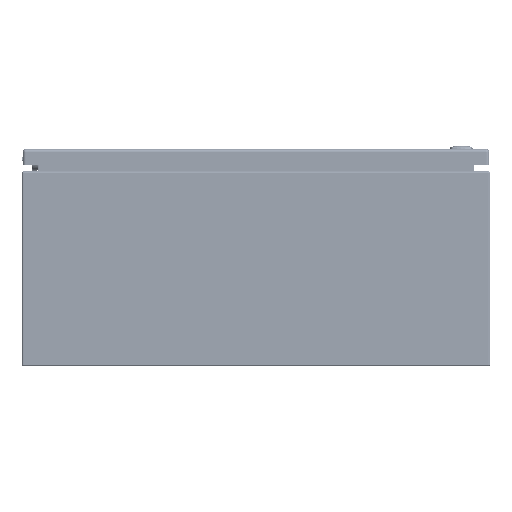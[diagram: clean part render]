
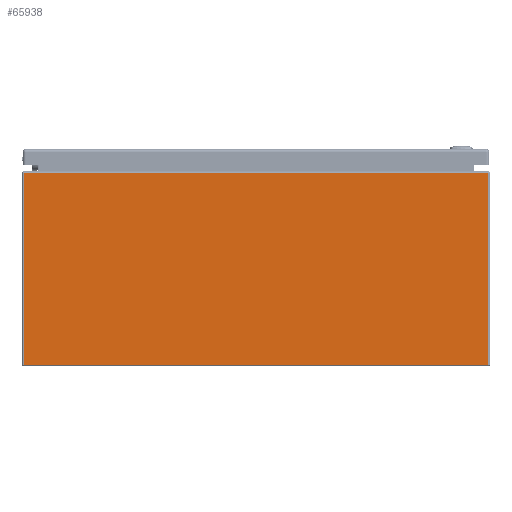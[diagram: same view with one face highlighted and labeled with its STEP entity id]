
A CAD part, front view. The second image highlights one B-rep face of the part: STEP entity #65938.
In plain terms, the highlighted planar face has unit normal (0, -1, 0).
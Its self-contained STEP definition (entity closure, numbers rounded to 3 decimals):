
#6130=LINE('',#93324,#10284);
#6137=LINE('',#93339,#10291);
#6139=LINE('',#93346,#10293);
#6141=LINE('',#93355,#10295);
#10284=VECTOR('',#77108,0.394);
#10291=VECTOR('',#77121,0.394);
#10293=VECTOR('',#77129,0.394);
#10295=VECTOR('',#77141,0.394);
#15540=FACE_OUTER_BOUND('',#19654,.T.);
#19654=EDGE_LOOP('',(#43927,#43928,#43929,#43930));
#26624=VERTEX_POINT('',#93294);
#26631=VERTEX_POINT('',#93320);
#26636=VERTEX_POINT('',#93338);
#26638=VERTEX_POINT('',#93344);
#33272=EDGE_CURVE('',#26624,#26631,#6130,.T.);
#33279=EDGE_CURVE('',#26631,#26636,#6137,.T.);
#33283=EDGE_CURVE('',#26638,#26624,#6139,.T.);
#33288=EDGE_CURVE('',#26638,#26636,#6141,.T.);
#43927=ORIENTED_EDGE('',*,*,#33272,.F.);
#43928=ORIENTED_EDGE('',*,*,#33283,.F.);
#43929=ORIENTED_EDGE('',*,*,#33288,.T.);
#43930=ORIENTED_EDGE('',*,*,#33279,.F.);
#64499=PLANE('',#70952);
#65938=ADVANCED_FACE('',(#15540),#64499,.F.);
#70952=AXIS2_PLACEMENT_3D('',#93366,#77155,#77156);
#77108=DIRECTION('',(1.,0.,0.));
#77121=DIRECTION('',(0.,0.,-1.));
#77129=DIRECTION('',(0.,0.,1.));
#77141=DIRECTION('',(1.,0.,0.));
#77155=DIRECTION('center_axis',(0.,1.,0.));
#77156=DIRECTION('ref_axis',(0.,0.,1.));
#93294=CARTESIAN_POINT('',(-11.916,-15.,9.916));
#93320=CARTESIAN_POINT('',(11.916,-15.,9.916));
#93324=CARTESIAN_POINT('',(5.979,-15.,9.916));
#93338=CARTESIAN_POINT('',(11.916,-15.,0.084));
#93339=CARTESIAN_POINT('',(11.916,-15.,5.));
#93344=CARTESIAN_POINT('',(-11.916,-15.,0.084));
#93346=CARTESIAN_POINT('',(-11.916,-15.,5.));
#93355=CARTESIAN_POINT('',(-5.958,-15.,0.084));
#93366=CARTESIAN_POINT('Origin',(0.,-15.,5.));
